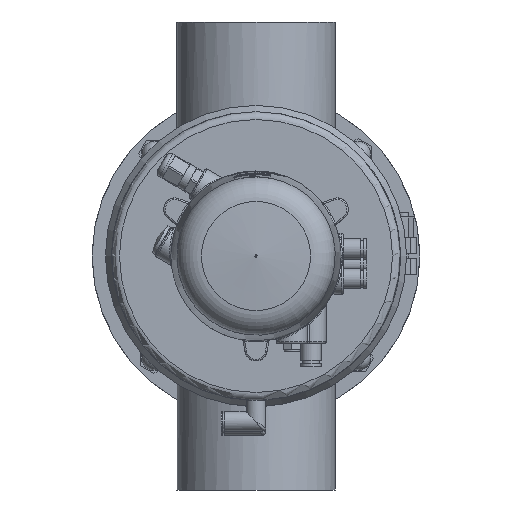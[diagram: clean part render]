
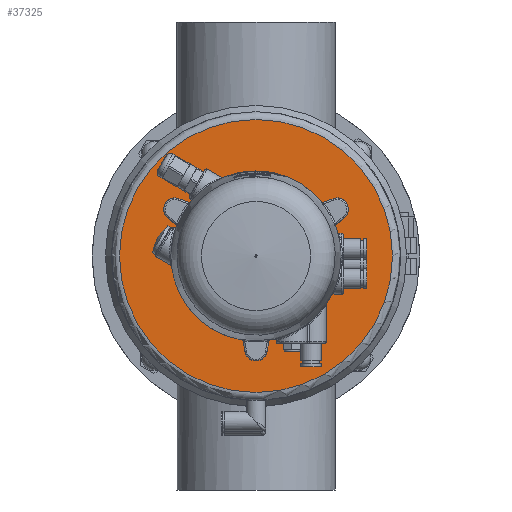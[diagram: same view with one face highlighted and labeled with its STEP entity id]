
A CAD part, front view. The second image highlights one B-rep face of the part: STEP entity #37325.
In plain terms, the highlighted planar face has unit normal (0, -1, 0) as drawn and (0, 1, 0) by its records, which use the part's own axes.
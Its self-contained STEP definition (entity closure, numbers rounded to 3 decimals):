
#48 = EDGE_LOOP ( 'NONE', ( #56208 ) ) ;
#2690 = FACE_BOUND ( 'NONE', #13955, .T. ) ;
#7889 = DIRECTION ( 'NONE',  ( 0., 1., 0. ) ) ;
#8489 = EDGE_LOOP ( 'NONE', ( #46789 ) ) ;
#9060 = VERTEX_POINT ( 'NONE', #18906 ) ;
#9973 = DIRECTION ( 'NONE',  ( 0., -1., 0. ) ) ;
#10620 = CARTESIAN_POINT ( 'NONE',  ( 0., 298., 0. ) ) ;
#12891 = PLANE ( 'NONE',  #61783 ) ;
#13955 = EDGE_LOOP ( 'NONE', ( #36997 ) ) ;
#16865 = CARTESIAN_POINT ( 'NONE',  ( -92.5, 298., 0. ) ) ;
#17885 = DIRECTION ( 'NONE',  ( 0., 0., 1. ) ) ;
#18092 = CARTESIAN_POINT ( 'NONE',  ( 0., 298., -87.5 ) ) ;
#18436 = AXIS2_PLACEMENT_3D ( 'NONE', #42489, #61519, #17885 ) ;
#18906 = CARTESIAN_POINT ( 'NONE',  ( 0., 298., -15.4 ) ) ;
#19067 = VERTEX_POINT ( 'NONE', #18092 ) ;
#19975 = CIRCLE ( 'NONE', #62907, 87.5 ) ;
#23062 = AXIS2_PLACEMENT_3D ( 'NONE', #43274, #53423, #47555 ) ;
#27970 = DIRECTION ( 'NONE',  ( 0., 0., -1. ) ) ;
#30040 = DIRECTION ( 'NONE',  ( 0., 0., -1. ) ) ;
#31996 = AXIS2_PLACEMENT_3D ( 'NONE', #10620, #9973, #30040 ) ;
#32894 = CARTESIAN_POINT ( 'NONE',  ( 0., 298., 0. ) ) ;
#32978 = DIRECTION ( 'NONE',  ( 0., -1., 0. ) ) ;
#35689 = VERTEX_POINT ( 'NONE', #51360 ) ;
#36997 = ORIENTED_EDGE ( 'NONE', *, *, #53382, .F. ) ;
#37325 = ADVANCED_FACE ( 'NONE', ( #2690, #37892, #43094, #57847 ), #12891, .F. ) ;
#37369 = CIRCLE ( 'NONE', #18436, 2.1 ) ;
#37892 = FACE_BOUND ( 'NONE', #50616, .T. ) ;
#39144 = EDGE_CURVE ( 'NONE', #19067, #19067, #19975, .T. ) ;
#42489 = CARTESIAN_POINT ( 'NONE',  ( 0., 298., 17.5 ) ) ;
#42846 = VERTEX_POINT ( 'NONE', #48098 ) ;
#43094 = FACE_OUTER_BOUND ( 'NONE', #48, .T. ) ;
#43274 = CARTESIAN_POINT ( 'NONE',  ( 0., 298., -17.5 ) ) ;
#46789 = ORIENTED_EDGE ( 'NONE', *, *, #56683, .T. ) ;
#47335 = EDGE_CURVE ( 'NONE', #42846, #42846, #37369, .T. ) ;
#47555 = DIRECTION ( 'NONE',  ( 0., 0., 1. ) ) ;
#48098 = CARTESIAN_POINT ( 'NONE',  ( 0., 298., 19.6 ) ) ;
#50616 = EDGE_LOOP ( 'NONE', ( #62571 ) ) ;
#51322 = CIRCLE ( 'NONE', #23062, 2.1 ) ;
#51360 = CARTESIAN_POINT ( 'NONE',  ( 0., 298., -10. ) ) ;
#53382 = EDGE_CURVE ( 'NONE', #9060, #9060, #51322, .T. ) ;
#53423 = DIRECTION ( 'NONE',  ( 0., 1., 0. ) ) ;
#56208 = ORIENTED_EDGE ( 'NONE', *, *, #39144, .T. ) ;
#56683 = EDGE_CURVE ( 'NONE', #35689, #35689, #60220, .T. ) ;
#56880 = DIRECTION ( 'NONE',  ( 0., 0., -1. ) ) ;
#57847 = FACE_BOUND ( 'NONE', #8489, .T. ) ;
#60220 = CIRCLE ( 'NONE', #31996, 10. ) ;
#61519 = DIRECTION ( 'NONE',  ( 0., 1., 0. ) ) ;
#61783 = AXIS2_PLACEMENT_3D ( 'NONE', #16865, #32978, #56880 ) ;
#62571 = ORIENTED_EDGE ( 'NONE', *, *, #47335, .F. ) ;
#62907 = AXIS2_PLACEMENT_3D ( 'NONE', #32894, #7889, #27970 ) ;
